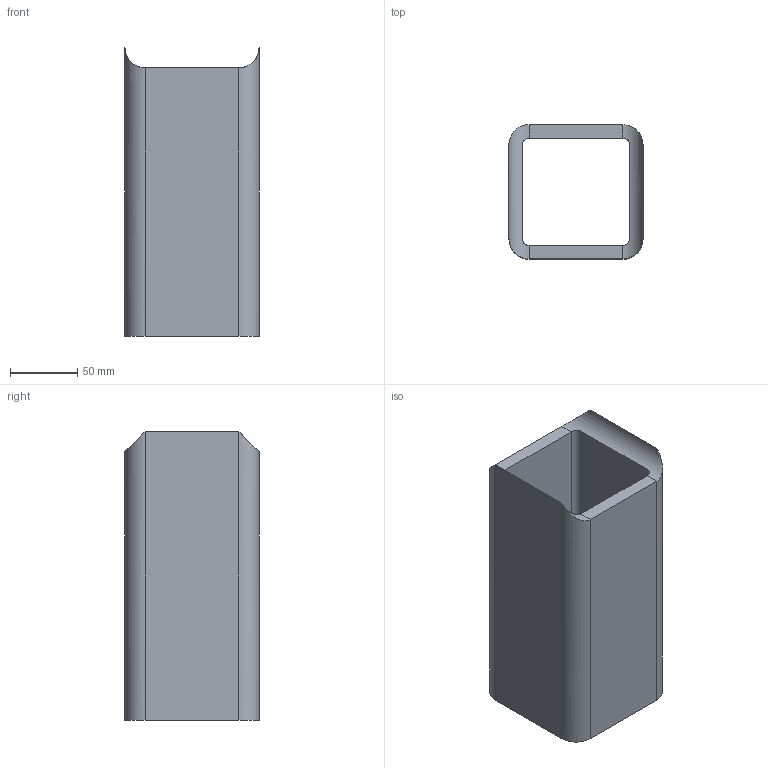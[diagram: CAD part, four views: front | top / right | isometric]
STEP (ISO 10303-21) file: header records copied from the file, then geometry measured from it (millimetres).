
FILE_DESCRIPTION(('Open CASCADE Model'),'2;1');
FILE_NAME('Open CASCADE Shape Model','2026-10-19T10:09:21',('Author'),( 'Open CASCADE'),'Open CASCADE STEP processor 8.0','Open CASCADE 8.0' ,'Unknown');
FILE_SCHEMA(('AUTOMOTIVE_DESIGN { 1 0 10303 214 1 1 1 1 }'));
Length unit declared in the file: millimetre
Products named in the file (1): TC04_POSTE_SHS100x100x10_S355_L200_P05 108
Bounding box: 100 x 100 x 215 mm (x, y, z)
Volume: 693812.1 mm3; surface area: 148113.6 mm2
Topology: 1 solids, 1 shells, 21 faces, 52 edges, 32 vertices
Faces by surface type: plane 11, cylinder 10
Entity records: 1520 total; most frequent: CARTESIAN_POINT 490, DIRECTION 184, LINE 116, VECTOR 116, ORIENTED_EDGE 104, PCURVE 104, DEFINITIONAL_REPRESENTATION 104, EDGE_CURVE 52
